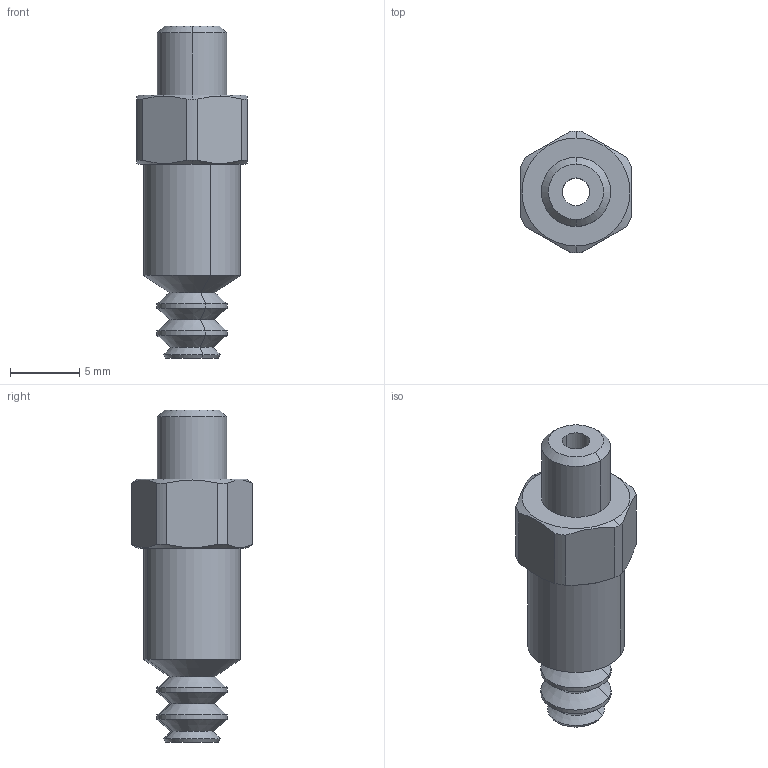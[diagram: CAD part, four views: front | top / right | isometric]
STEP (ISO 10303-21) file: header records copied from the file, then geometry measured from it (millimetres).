
FILE_DESCRIPTION (( 'STEP AP214' ), '1' );
FILE_NAME ('FSG-4-HT1-60.STEP', '2021-07-01T09:17:54', ( '微软用户' ), ( '微软中国' ), 'SwSTEP 2.0', 'SolidWorks 2018', '' );
FILE_SCHEMA (( 'AUTOMOTIVE_DESIGN' ));
Length unit declared in the file: millimetre
Products named in the file (1): FSG-4-HT1-60
Bounding box: 8 x 8.8 x 24 mm (x, y, z)
Volume: 678.8 mm3; surface area: 756.8 mm2
Topology: 1 solids, 1 shells, 59 faces, 131 edges, 78 vertices
Faces by surface type: cone 24, cylinder 23, plane 12
Entity records: 1701 total; most frequent: CARTESIAN_POINT 329, DIRECTION 305, ORIENTED_EDGE 262, EDGE_CURVE 131, AXIS2_PLACEMENT_3D 126, VERTEX_POINT 78, CIRCLE 66, EDGE_LOOP 65
